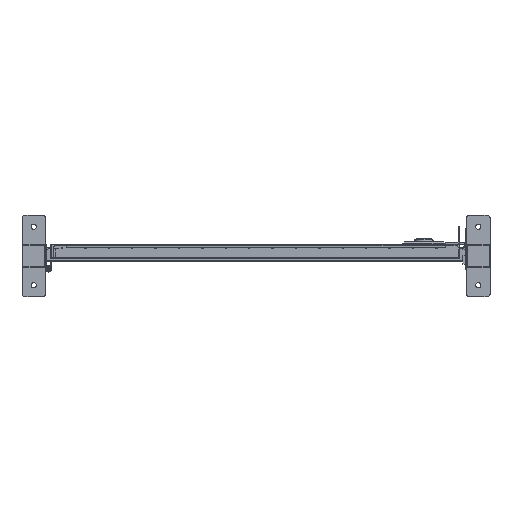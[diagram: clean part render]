
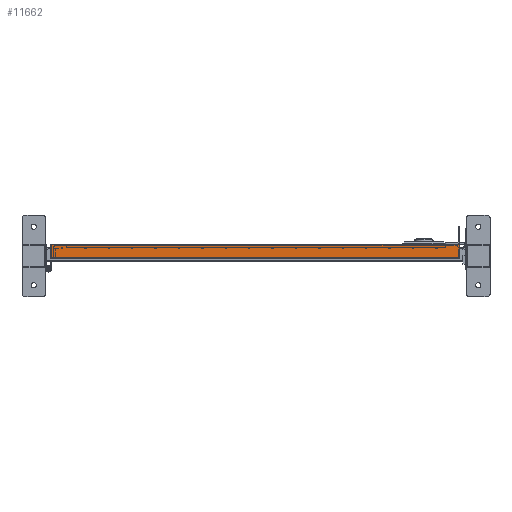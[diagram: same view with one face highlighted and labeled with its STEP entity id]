
A CAD part, front view. The second image highlights one B-rep face of the part: STEP entity #11662.
In plain terms, the highlighted planar face has unit normal (0, -1, 0) as drawn and (0, 1, 0) by its records, which use the part's own axes.
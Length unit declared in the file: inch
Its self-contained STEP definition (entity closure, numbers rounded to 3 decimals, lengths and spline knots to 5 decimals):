
#1904 = CARTESIAN_POINT ( 'NONE',  ( 17.4375, 0., -1.25 ) ) ;
#2760 = VECTOR ( 'NONE', #23640, 39.37008 ) ;
#3155 = VERTEX_POINT ( 'NONE', #33417 ) ;
#5604 = VECTOR ( 'NONE', #13663, 39.37008 ) ;
#10503 = DIRECTION ( 'NONE',  ( 0., -1., 0. ) ) ;
#11662 = ADVANCED_FACE ( 'NONE', ( #18084 ), #28639, .F. ) ;
#13120 = DIRECTION ( 'NONE',  ( -1., 0., 0. ) ) ;
#13663 = DIRECTION ( 'NONE',  ( 0., 0., 1. ) ) ;
#13945 = ORIENTED_EDGE ( 'NONE', *, *, #35811, .T. ) ;
#18084 = FACE_OUTER_BOUND ( 'NONE', #30444, .T. ) ;
#19920 = EDGE_CURVE ( 'NONE', #36804, #45294, #24144, .T. ) ;
#20390 = DIRECTION ( 'NONE',  ( 1., 0., 0. ) ) ;
#20738 = ORIENTED_EDGE ( 'NONE', *, *, #38046, .T. ) ;
#21786 = AXIS2_PLACEMENT_3D ( 'NONE', #28400, #10503, #36445 ) ;
#23640 = DIRECTION ( 'NONE',  ( 0., 0., 1. ) ) ;
#24144 = LINE ( 'NONE', #28082, #2760 ) ;
#28082 = CARTESIAN_POINT ( 'NONE',  ( -17.4375, 0., 0. ) ) ;
#28369 = LINE ( 'NONE', #47164, #5604 ) ;
#28400 = CARTESIAN_POINT ( 'NONE',  ( 17.4375, 0., 0. ) ) ;
#28639 = PLANE ( 'NONE',  #21786 ) ;
#30444 = EDGE_LOOP ( 'NONE', ( #39048, #13945, #41585, #20738 ) ) ;
#31743 = CARTESIAN_POINT ( 'NONE',  ( 17.4375, 0., -1.25 ) ) ;
#32613 = LINE ( 'NONE', #43613, #36927 ) ;
#33417 = CARTESIAN_POINT ( 'NONE',  ( 17.4375, 0., -0.03125 ) ) ;
#35149 = LINE ( 'NONE', #31743, #40796 ) ;
#35198 = CARTESIAN_POINT ( 'NONE',  ( -17.4375, 0., -1.25 ) ) ;
#35811 = EDGE_CURVE ( 'NONE', #45294, #3155, #32613, .T. ) ;
#36445 = DIRECTION ( 'NONE',  ( 0., 0., -1. ) ) ;
#36804 = VERTEX_POINT ( 'NONE', #35198 ) ;
#36927 = VECTOR ( 'NONE', #20390, 39.37008 ) ;
#37773 = EDGE_CURVE ( 'NONE', #39301, #3155, #28369, .T. ) ;
#38046 = EDGE_CURVE ( 'NONE', #39301, #36804, #35149, .T. ) ;
#39048 = ORIENTED_EDGE ( 'NONE', *, *, #19920, .T. ) ;
#39301 = VERTEX_POINT ( 'NONE', #1904 ) ;
#40796 = VECTOR ( 'NONE', #13120, 39.37008 ) ;
#41585 = ORIENTED_EDGE ( 'NONE', *, *, #37773, .F. ) ;
#43613 = CARTESIAN_POINT ( 'NONE',  ( 17.4375, 0., -0.03125 ) ) ;
#45294 = VERTEX_POINT ( 'NONE', #46031 ) ;
#46031 = CARTESIAN_POINT ( 'NONE',  ( -17.4375, 0., -0.03125 ) ) ;
#47164 = CARTESIAN_POINT ( 'NONE',  ( 17.4375, 0., 0. ) ) ;
